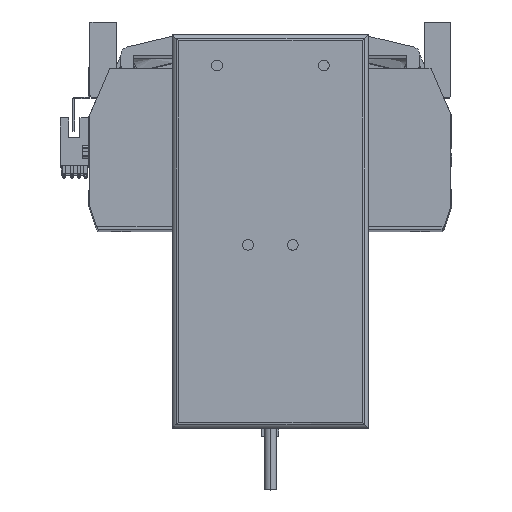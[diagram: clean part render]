
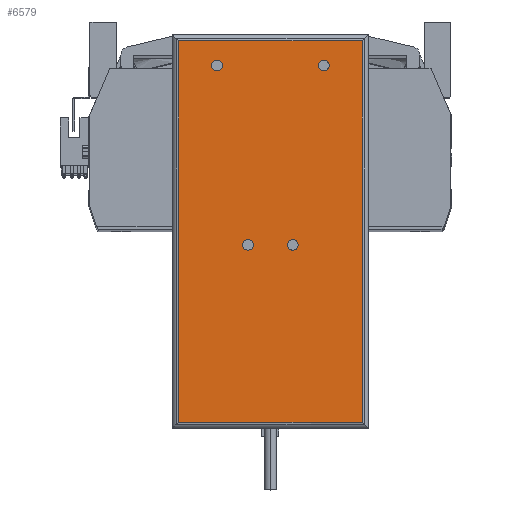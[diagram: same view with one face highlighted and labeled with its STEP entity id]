
A CAD part, top view. The second image highlights one B-rep face of the part: STEP entity #6579.
In plain terms, the highlighted planar face has unit normal (0, 0, 1) as drawn and (0, 0, -1) by its records, which use the part's own axes.
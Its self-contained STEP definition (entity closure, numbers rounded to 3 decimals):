
#854 = CARTESIAN_POINT ( 'NONE',  ( -8., -6.25, 0. ) ) ;
#889 = EDGE_CURVE ( 'NONE', #43380, #23908, #30653, .T. ) ;
#916 = VERTEX_POINT ( 'NONE', #46008 ) ;
#1081 = DIRECTION ( 'NONE',  ( 0., 0., -1. ) ) ;
#1988 = AXIS2_PLACEMENT_3D ( 'NONE', #13738, #43165, #27911 ) ;
#2248 = CARTESIAN_POINT ( 'NONE',  ( -10.5, -6.25, 0. ) ) ;
#2340 = AXIS2_PLACEMENT_3D ( 'NONE', #17955, #32954, #7360 ) ;
#2349 = FACE_OUTER_BOUND ( 'NONE', #13830, .T. ) ;
#2525 = DIRECTION ( 'NONE',  ( -1., 0., 0. ) ) ;
#2629 = DIRECTION ( 'NONE',  ( 0., 0., -1. ) ) ;
#2857 = ORIENTED_EDGE ( 'NONE', *, *, #3149, .T. ) ;
#3013 = ORIENTED_EDGE ( 'NONE', *, *, #43194, .F. ) ;
#3149 = EDGE_CURVE ( 'NONE', #41120, #916, #10168, .T. ) ;
#3230 = AXIS2_PLACEMENT_3D ( 'NONE', #13646, #21128, #2525 ) ;
#3430 = ORIENTED_EDGE ( 'NONE', *, *, #33415, .F. ) ;
#3791 = CARTESIAN_POINT ( 'NONE',  ( 25., 77.75, 0. ) ) ;
#4041 = VERTEX_POINT ( 'NONE', #6329 ) ;
#4067 = FACE_BOUND ( 'NONE', #15143, .T. ) ;
#4349 = ORIENTED_EDGE ( 'NONE', *, *, #12360, .F. ) ;
#4556 = AXIS2_PLACEMENT_3D ( 'NONE', #2248, #6018, #13064 ) ;
#5086 = CARTESIAN_POINT ( 'NONE',  ( 10.5, -6.25, 0. ) ) ;
#5156 = CARTESIAN_POINT ( 'NONE',  ( -25., 77.75, 0. ) ) ;
#5966 = EDGE_LOOP ( 'NONE', ( #4349, #11484 ) ) ;
#6018 = DIRECTION ( 'NONE',  ( 0., 0., -1. ) ) ;
#6329 = CARTESIAN_POINT ( 'NONE',  ( 22.5, 77.75, 0. ) ) ;
#6579 = ADVANCED_FACE ( 'NONE', ( #2349, #8752, #46157, #4067, #42066 ), #29345, .F. ) ;
#7360 = DIRECTION ( 'NONE',  ( 1., 0., 0. ) ) ;
#8752 = FACE_BOUND ( 'NONE', #40822, .T. ) ;
#9167 = CARTESIAN_POINT ( 'NONE',  ( 8., -6.25, 0. ) ) ;
#9625 = DIRECTION ( 'NONE',  ( 0., -1., 0. ) ) ;
#10168 = LINE ( 'NONE', #13998, #16009 ) ;
#10348 = VERTEX_POINT ( 'NONE', #44001 ) ;
#10396 = AXIS2_PLACEMENT_3D ( 'NONE', #3791, #45626, #26959 ) ;
#10512 = LINE ( 'NONE', #46158, #43844 ) ;
#11484 = ORIENTED_EDGE ( 'NONE', *, *, #38040, .F. ) ;
#12135 = ORIENTED_EDGE ( 'NONE', *, *, #24889, .F. ) ;
#12360 = EDGE_CURVE ( 'NONE', #13891, #35697, #44319, .T. ) ;
#13064 = DIRECTION ( 'NONE',  ( -1., 0., 0. ) ) ;
#13165 = AXIS2_PLACEMENT_3D ( 'NONE', #45660, #1081, #43242 ) ;
#13646 = CARTESIAN_POINT ( 'NONE',  ( 25., 77.75, 0. ) ) ;
#13738 = CARTESIAN_POINT ( 'NONE',  ( -25., 77.75, 0. ) ) ;
#13830 = EDGE_LOOP ( 'NONE', ( #2857, #26339, #46687, #23107 ) ) ;
#13891 = VERTEX_POINT ( 'NONE', #9167 ) ;
#13998 = CARTESIAN_POINT ( 'NONE',  ( 43., -92.25, 0. ) ) ;
#14238 = DIRECTION ( 'NONE',  ( 1., 0., 0. ) ) ;
#15143 = EDGE_LOOP ( 'NONE', ( #19144, #21783 ) ) ;
#15795 = DIRECTION ( 'NONE',  ( 0., 1., 0. ) ) ;
#15799 = DIRECTION ( 'NONE',  ( -1., 0., 0. ) ) ;
#16009 = VECTOR ( 'NONE', #9625, 1000. ) ;
#16034 = EDGE_CURVE ( 'NONE', #4041, #16484, #20022, .T. ) ;
#16322 = VERTEX_POINT ( 'NONE', #39577 ) ;
#16484 = VERTEX_POINT ( 'NONE', #36723 ) ;
#17348 = DIRECTION ( 'NONE',  ( -1., 0., 0. ) ) ;
#17514 = CARTESIAN_POINT ( 'NONE',  ( -10.5, -6.25, 0. ) ) ;
#17955 = CARTESIAN_POINT ( 'NONE',  ( -46., -92.25, 0. ) ) ;
#18744 = CIRCLE ( 'NONE', #1988, 2.5 ) ;
#19111 = EDGE_CURVE ( 'NONE', #32321, #10348, #10512, .T. ) ;
#19144 = ORIENTED_EDGE ( 'NONE', *, *, #31414, .F. ) ;
#19615 = AXIS2_PLACEMENT_3D ( 'NONE', #17514, #2629, #17348 ) ;
#20006 = DIRECTION ( 'NONE',  ( 0., 0., -1. ) ) ;
#20022 = CIRCLE ( 'NONE', #3230, 2.5 ) ;
#21128 = DIRECTION ( 'NONE',  ( 0., 0., -1. ) ) ;
#21239 = DIRECTION ( 'NONE',  ( -1., 0., 0. ) ) ;
#21783 = ORIENTED_EDGE ( 'NONE', *, *, #889, .F. ) ;
#22251 = EDGE_LOOP ( 'NONE', ( #44474, #12135 ) ) ;
#22363 = CARTESIAN_POINT ( 'NONE',  ( -22.5, 77.75, 0. ) ) ;
#22838 = AXIS2_PLACEMENT_3D ( 'NONE', #5086, #38445, #31373 ) ;
#23107 = ORIENTED_EDGE ( 'NONE', *, *, #47591, .T. ) ;
#23776 = CIRCLE ( 'NONE', #19615, 2.5 ) ;
#23908 = VERTEX_POINT ( 'NONE', #39348 ) ;
#24508 = CIRCLE ( 'NONE', #4556, 2.5 ) ;
#24889 = EDGE_CURVE ( 'NONE', #16484, #4041, #36806, .T. ) ;
#24979 = AXIS2_PLACEMENT_3D ( 'NONE', #5156, #20006, #15799 ) ;
#25324 = LINE ( 'NONE', #37095, #37673 ) ;
#26339 = ORIENTED_EDGE ( 'NONE', *, *, #38903, .T. ) ;
#26441 = CIRCLE ( 'NONE', #13165, 2.5 ) ;
#26959 = DIRECTION ( 'NONE',  ( -1., 0., 0. ) ) ;
#27911 = DIRECTION ( 'NONE',  ( -1., 0., 0. ) ) ;
#27995 = CARTESIAN_POINT ( 'NONE',  ( 13., -6.25, 0. ) ) ;
#28906 = VERTEX_POINT ( 'NONE', #854 ) ;
#29345 = PLANE ( 'NONE',  #2340 ) ;
#30653 = CIRCLE ( 'NONE', #24979, 2.5 ) ;
#31373 = DIRECTION ( 'NONE',  ( -1., 0., 0. ) ) ;
#31414 = EDGE_CURVE ( 'NONE', #23908, #43380, #18744, .T. ) ;
#32321 = VERTEX_POINT ( 'NONE', #46043 ) ;
#32507 = CARTESIAN_POINT ( 'NONE',  ( -46., -89.25, 0. ) ) ;
#32883 = LINE ( 'NONE', #32507, #39383 ) ;
#32954 = DIRECTION ( 'NONE',  ( 0., 0., 1. ) ) ;
#33415 = EDGE_CURVE ( 'NONE', #16322, #28906, #24508, .T. ) ;
#35697 = VERTEX_POINT ( 'NONE', #27995 ) ;
#36723 = CARTESIAN_POINT ( 'NONE',  ( 27.5, 77.75, 0. ) ) ;
#36806 = CIRCLE ( 'NONE', #10396, 2.5 ) ;
#37095 = CARTESIAN_POINT ( 'NONE',  ( -46., 89.25, 0. ) ) ;
#37673 = VECTOR ( 'NONE', #14238, 1000. ) ;
#38040 = EDGE_CURVE ( 'NONE', #35697, #13891, #26441, .T. ) ;
#38445 = DIRECTION ( 'NONE',  ( 0., 0., -1. ) ) ;
#38903 = EDGE_CURVE ( 'NONE', #916, #32321, #32883, .T. ) ;
#39348 = CARTESIAN_POINT ( 'NONE',  ( -27.5, 77.75, 0. ) ) ;
#39383 = VECTOR ( 'NONE', #21239, 1000. ) ;
#39577 = CARTESIAN_POINT ( 'NONE',  ( -13., -6.25, 0. ) ) ;
#40822 = EDGE_LOOP ( 'NONE', ( #3430, #3013 ) ) ;
#41120 = VERTEX_POINT ( 'NONE', #45865 ) ;
#42066 = FACE_BOUND ( 'NONE', #22251, .T. ) ;
#43165 = DIRECTION ( 'NONE',  ( 0., 0., -1. ) ) ;
#43194 = EDGE_CURVE ( 'NONE', #28906, #16322, #23776, .T. ) ;
#43242 = DIRECTION ( 'NONE',  ( -1., 0., 0. ) ) ;
#43380 = VERTEX_POINT ( 'NONE', #22363 ) ;
#43844 = VECTOR ( 'NONE', #15795, 1000. ) ;
#44001 = CARTESIAN_POINT ( 'NONE',  ( -43., 89.25, 0. ) ) ;
#44319 = CIRCLE ( 'NONE', #22838, 2.5 ) ;
#44474 = ORIENTED_EDGE ( 'NONE', *, *, #16034, .F. ) ;
#45626 = DIRECTION ( 'NONE',  ( 0., 0., -1. ) ) ;
#45660 = CARTESIAN_POINT ( 'NONE',  ( 10.5, -6.25, 0. ) ) ;
#45865 = CARTESIAN_POINT ( 'NONE',  ( 43., 89.25, 0. ) ) ;
#46008 = CARTESIAN_POINT ( 'NONE',  ( 43., -89.25, 0. ) ) ;
#46043 = CARTESIAN_POINT ( 'NONE',  ( -43., -89.25, 0. ) ) ;
#46157 = FACE_BOUND ( 'NONE', #5966, .T. ) ;
#46158 = CARTESIAN_POINT ( 'NONE',  ( -43., -92.25, 0. ) ) ;
#46687 = ORIENTED_EDGE ( 'NONE', *, *, #19111, .T. ) ;
#47591 = EDGE_CURVE ( 'NONE', #10348, #41120, #25324, .T. ) ;
